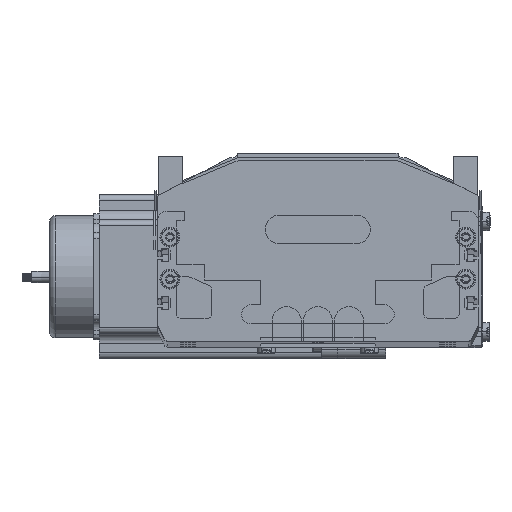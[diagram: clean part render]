
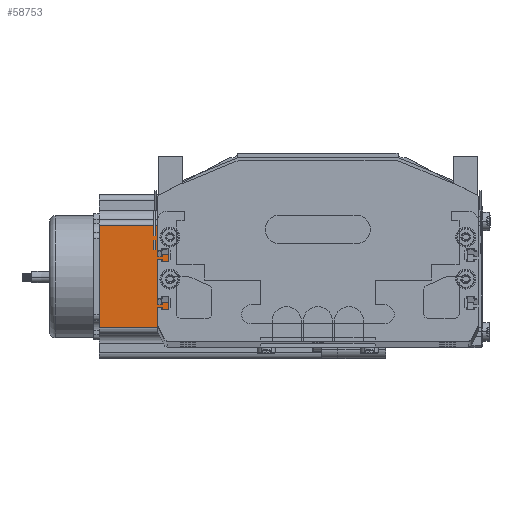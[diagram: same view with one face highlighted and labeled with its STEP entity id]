
A CAD part, top view. The second image highlights one B-rep face of the part: STEP entity #58753.
In plain terms, the highlighted planar face has unit normal (0, 0, 1) as drawn and (0, -1, 0) by its records, which use the part's own axes.
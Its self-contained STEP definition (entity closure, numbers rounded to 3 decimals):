
#42680 = CARTESIAN_POINT ( 'NONE',  ( 69.74, 0., 0. ) ) ;
#42740 = LINE ( 'NONE', #42776, #42775 ) ;
#42757 = DIRECTION ( 'NONE',  ( 0., 0., -1. ) ) ;
#42758 = VECTOR ( 'NONE', #42757, 1000. ) ;
#42759 = CARTESIAN_POINT ( 'NONE',  ( 16.16, 0., 116.5 ) ) ;
#42760 = LINE ( 'NONE', #42759, #42758 ) ;
#42774 = DIRECTION ( 'NONE',  ( 1., 0., 0. ) ) ;
#42775 = VECTOR ( 'NONE', #42774, 1000. ) ;
#42776 = CARTESIAN_POINT ( 'NONE',  ( 0., 0., 0. ) ) ;
#42814 = CARTESIAN_POINT ( 'NONE',  ( 16.16, 0., 0. ) ) ;
#43394 = DIRECTION ( 'NONE',  ( 0., 1., 0. ) ) ;
#43395 = CARTESIAN_POINT ( 'NONE',  ( 0., 0., 116.5 ) ) ;
#43398 = DIRECTION ( 'NONE',  ( 0., 0., 1. ) ) ;
#43433 = AXIS2_PLACEMENT_3D ( 'NONE', #43395, #43394, #43398 ) ;
#44643 = CARTESIAN_POINT ( 'NONE',  ( 16.16, 0., 116.5 ) ) ;
#44654 = LINE ( 'NONE', #44709, #44708 ) ;
#44701 = DIRECTION ( 'NONE',  ( 0., 0., 1. ) ) ;
#44702 = VECTOR ( 'NONE', #44701, 1000. ) ;
#44703 = CARTESIAN_POINT ( 'NONE',  ( 69.74, 0., 116.5 ) ) ;
#44704 = LINE ( 'NONE', #44703, #44702 ) ;
#44707 = DIRECTION ( 'NONE',  ( 1., 0., 0. ) ) ;
#44708 = VECTOR ( 'NONE', #44707, 1000. ) ;
#44709 = CARTESIAN_POINT ( 'NONE',  ( 0., 0., 116.5 ) ) ;
#44873 = CARTESIAN_POINT ( 'NONE',  ( 69.74, 0., 116.5 ) ) ;
#46688 = PLANE ( 'NONE',  #43433 ) ;
#58753 = ADVANCED_FACE ( 'NONE', ( #87671 ), #46688, .F. ) ;
#59361 = VERTEX_POINT ( 'NONE', #42680 ) ;
#59392 = EDGE_CURVE ( 'NONE', #60279, #59361, #42740, .T. ) ;
#59596 = EDGE_CURVE ( 'NONE', #60554, #60279, #42760, .T. ) ;
#60279 = VERTEX_POINT ( 'NONE', #42814 ) ;
#60551 = ORIENTED_EDGE ( 'NONE', *, *, #60556, .F. ) ;
#60554 = VERTEX_POINT ( 'NONE', #44643 ) ;
#60555 = ORIENTED_EDGE ( 'NONE', *, *, #60558, .T. ) ;
#60556 = EDGE_CURVE ( 'NONE', #60554, #60597, #44654, .T. ) ;
#60558 = EDGE_CURVE ( 'NONE', #59361, #60597, #44704, .T. ) ;
#60577 = ORIENTED_EDGE ( 'NONE', *, *, #59596, .T. ) ;
#60597 = VERTEX_POINT ( 'NONE', #44873 ) ;
#68154 = ORIENTED_EDGE ( 'NONE', *, *, #59392, .T. ) ;
#68592 = EDGE_LOOP ( 'NONE', ( #68154, #60555, #60551, #60577 ) ) ;
#87671 = FACE_OUTER_BOUND ( 'NONE', #68592, .T. ) ;
